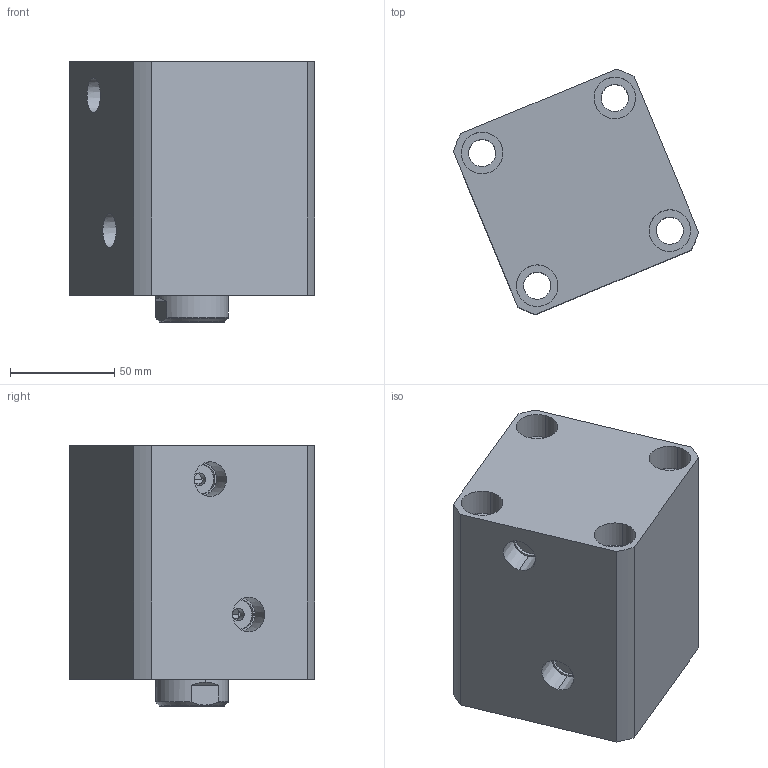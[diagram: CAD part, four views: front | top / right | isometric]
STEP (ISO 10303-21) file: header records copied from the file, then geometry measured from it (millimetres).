
FILE_DESCRIPTION (( 'STEP AP214' ), '1' );
FILE_NAME ('chtb-sd63x45n_asm.STEP', '2018-05-10T01:58:03', ( 'Windows' ), ( 'Microsoft' ), 'SwSTEP 2.0', 'SolidWorks 2015', '' );
FILE_SCHEMA (( 'AUTOMOTIVE_DESIGN' ));
Length unit declared in the file: millimetre
Products named in the file (4): CHTB63X45NHSG; CHTB63X45NBT; CHTB-63QG; chtb-sd63x45n_asm
Assembly tree (3 placements, depth 2):
  chtb-sd63x45n_asm
    CHTB-63QG
    CHTB63X45NBT
    CHTB63X45NHSG
Bounding box: 117.81 x 117.81 x 125 mm (x, y, z)
Volume: 803039.2 mm3; surface area: 140366.8 mm2
Topology: 3 solids, 3 shells, 165 faces, 465 edges, 318 vertices
Faces by surface type: cylinder 101, plane 33, bspline 12, cone 12, torus 7
Entity records: 17616 total; most frequent: CARTESIAN_POINT 13505, ORIENTED_EDGE 918, DIRECTION 719, EDGE_CURVE 459, VERTEX_POINT 318, AXIS2_PLACEMENT_3D 291, EDGE_LOOP 197, ADVANCED_FACE 165
